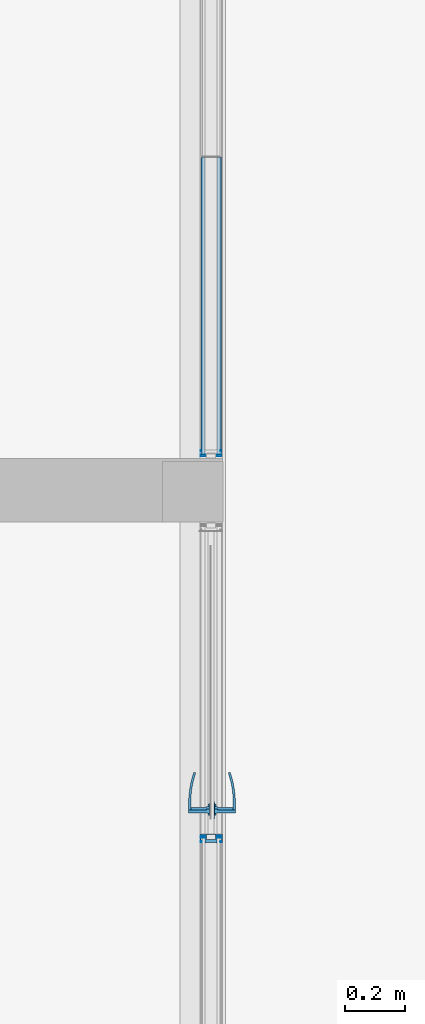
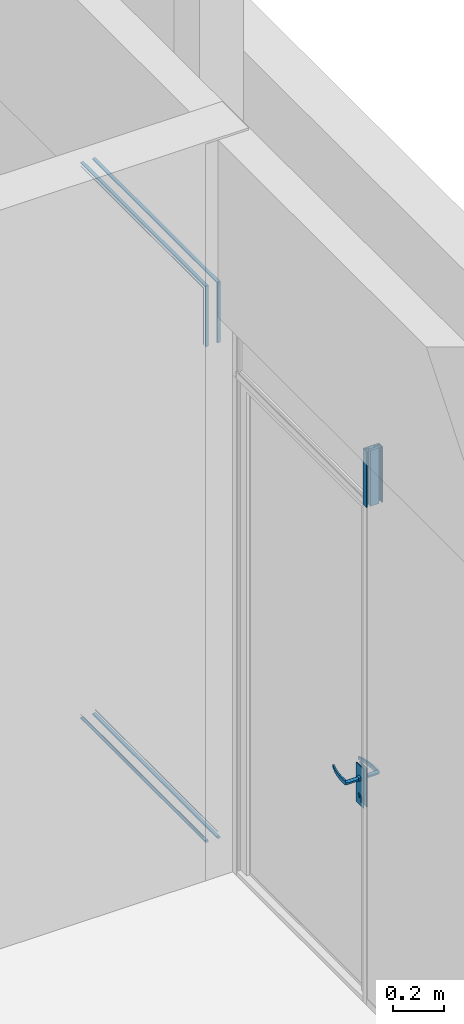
# One storey, part 45 of 65: 6 building element parts, 7 elements without a shape of their own.
"""IFC2X3 building model written with IfcOpenShell, lengths in millimetres."""

from ifc_helpers import new_model, entity, si_unit, converted_unit, derived_unit, money_unit, direction, frame, origin_with_axes, place, context, subcontext, project, spatial, open_shell, faceted_brep, surface_model, material, type_object, element, aggregate, save


model = new_model("IFC2X3")

# Units and contexts
model_context = context("Model", 3, precision=0.01, world=origin_with_axes(), true_north=direction((0.0, 1.0)))
body_context = subcontext(model_context, "Body", "Model", "MODEL_VIEW")
ifc_project = project(units=[si_unit("LENGTHUNIT", "METRE", prefix="MILLI"), si_unit("AREAUNIT", "SQUARE_METRE"), si_unit("VOLUMEUNIT", "CUBIC_METRE"), converted_unit("PLANEANGLEUNIT", "DEGREE", entity("IfcPlaneAngleMeasure", 0.0174532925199), si_unit("PLANEANGLEUNIT", "RADIAN"), dimensions=[0, 0, 0, 0, 0, 0, 0]), si_unit("SOLIDANGLEUNIT", "STERADIAN"), money_unit("EUR"), converted_unit("TIMEUNIT", "Year", entity("IfcTimeMeasure", 31556926.0), si_unit("TIMEUNIT", "SECOND"), dimensions=[0, 0, 1, 0, 0, 0, 0]), si_unit("MASSUNIT", "GRAM", prefix="KILO"), si_unit("THERMODYNAMICTEMPERATUREUNIT", "DEGREE_CELSIUS"), si_unit("LUMINOUSINTENSITYUNIT", "LUMEN"), si_unit("ENERGYUNIT", "JOULE", prefix="MEGA"), derived_unit("THERMALCONDUCTANCEUNIT", [(si_unit("POWERUNIT", "WATT"), 1), (si_unit("LENGTHUNIT", "METRE"), -1), (si_unit("THERMODYNAMICTEMPERATUREUNIT", "KELVIN"), -1)]), derived_unit("SPECIFICHEATCAPACITYUNIT", [(si_unit("ENERGYUNIT", "JOULE"), 1), (si_unit("MASSUNIT", "GRAM", prefix="KILO"), -1), (si_unit("THERMODYNAMICTEMPERATUREUNIT", "KELVIN"), -1)]), derived_unit("MASSDENSITYUNIT", [(si_unit("MASSUNIT", "GRAM", prefix="KILO"), 1), (si_unit("VOLUMEUNIT", "CUBIC_METRE"), -1)])], contexts=[model_context])

# Site, building, storey
site_placement = place(None, origin_with_axes())
site = spatial("IfcSite", under=ifc_project, at=site_placement, Name="Puškini 31, Narva", CompositionType="ELEMENT")
building_placement = place(site_placement, origin_with_axes())
building = spatial("IfcBuilding", under=site, at=building_placement, Name="Narva Riigigümnaasium", CompositionType="ELEMENT")
storey_placement = place(building_placement, frame((0.0, 0.0, -1320.0), z_axis=(0.0, 0.0, 1.0), x_axis=(1.0, 0.0, 0.0)))
storey = spatial("IfcBuildingStorey", under=building, at=storey_placement, Name="1.korrus -1.32", CompositionType="ELEMENT", Elevation=-1320.0)

# Curtain wall, members, building element parts
curtain_wall_type = type_object("IfcCurtainWallType", Name="Curtain Wall Type", PredefinedType="NOTDEFINED")
curtain_wall_1_placement = place(storey_placement, frame((30362.9999988, 168706.249936, -1.99739158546e-06), z_axis=(0.0, 0.0, 1.0), x_axis=(1.0, 0.0, 0.0)))
curtain_wall_1 = element("IfcCurtainWall", 1, at=curtain_wall_1_placement, inside=storey, type_object=curtain_wall_type, Name="G-SKLF-05")
member_type = type_object("IfcMemberType", Name="Boundary Frame 30 x 37", PredefinedType="MULLION")
member_1_placement = place(curtain_wall_1_placement, frame((0.0, -1496.25, 2700.00009054), z_axis=(0.0, 1.0, 0.0), x_axis=(0.0, 0.0, 1.0)))
member_1 = element("IfcMember", 2, at=member_1_placement, type_object=member_type, Name="G-SKLF-14-raam", ObjectType="MULLION")
ifc_material_1 = material(Name="Klaasvill")
building_element_part_1_placement = place(member_1_placement, origin_with_axes())
building_element_part_1 = element("IfcBuildingElementPart", 3, at=building_element_part_1_placement, material=ifc_material_1, Name="Klaasvill", context=body_context, shape_type="Brep", body=[
    faceted_brep([(-13.8499999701, -20.000000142, 13.8499999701), (-13.8499999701, -20.000000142, 996.807494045), (-7.49999990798, -20.000000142, 997.124996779), (-7.49999990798, -20.000000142, 7.49999990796), (-13.8499999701, -34.0161444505, 13.8499999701), (-13.8499999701, -34.0161444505, 996.807494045), (-7.49999990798, -34.0161444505, 997.124996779), (-7.49999990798, -34.0161444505, 7.49999990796)], [[[0, 1, 2, 3]], [[4, 5, 1, 0]], [[2, 1, 5, 6]], [[3, 2, 6, 7]], [[3, 7, 4, 0]], [[7, 6, 5, 4]]]),
    faceted_brep([(-25.004489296, -32.0307503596, 25.004489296), (-25.004489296, -32.0307503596, 996.249764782), (-24.987414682, -34.0161444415, 996.25061852), (-24.987414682, -34.0161444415, 24.987414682), (-25.742237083, -31.2930025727, 25.742237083), (-25.742237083, -31.2930025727, 996.212877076), (-26.7500193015, -31.0229681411, 996.162487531), (-27.75780152, -31.2930025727, 996.112097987), (-28.4955493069, -32.0307503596, 996.075210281), (-28.7655837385, -33.0385325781, 996.061708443), (-28.5126239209, -34.0161444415, 996.074356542), (-28.5126239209, -34.0161444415, 28.5126239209), (-28.7655837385, -33.0385325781, 28.7655837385), (-28.4955493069, -32.0307503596, 28.4955493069), (-27.75780152, -31.2930025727, 27.75780152), (-26.7500193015, -31.0229681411, 26.7500193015)], [[[0, 1, 2, 3]], [[4, 5, 1, 0]], [[2, 1, 5, 6, 7, 8, 9, 10]], [[3, 2, 10, 11]], [[3, 11, 12, 13, 14, 15, 4, 0]], [[15, 6, 5, 4]], [[14, 7, 6, 15]], [[13, 8, 7, 14]], [[12, 9, 8, 13]], [[11, 10, 9, 12]]]),
    faceted_brep([(-7.49999990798, 34.0161445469, 7.49999990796), (-7.49999990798, 34.0161445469, 997.124996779), (-7.49999990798, 19.9999997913, 997.124996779), (-7.49999990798, 19.9999997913, 7.49999990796), (-13.8499999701, 34.0161445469, 13.8499999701), (-13.8499999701, 34.0161445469, 996.807494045), (-13.8499999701, 19.9999997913, 996.807494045), (-13.8499999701, 19.9999997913, 13.8499999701)], [[[0, 1, 2, 3]], [[4, 5, 1, 0]], [[2, 1, 5, 6]], [[3, 2, 6, 7]], [[3, 7, 4, 0]], [[7, 6, 5, 4]]]),
    faceted_brep([(-24.987414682, 34.0161444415, 24.987414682), (-24.987414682, 34.0161444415, 996.25061852), (-25.004489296, 32.0307503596, 996.249764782), (-25.004489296, 32.0307503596, 25.004489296), (-28.5126239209, 34.0161444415, 28.5126239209), (-28.5126239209, 34.0161444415, 996.074356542), (-28.7655837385, 33.0385325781, 996.061708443), (-28.4955493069, 32.0307503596, 996.075210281), (-27.75780152, 31.2930025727, 996.112097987), (-26.7500193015, 31.0229681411, 996.162487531), (-25.742237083, 31.2930025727, 996.212877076), (-25.742237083, 31.2930025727, 25.742237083), (-26.7500193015, 31.0229681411, 26.7500193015), (-27.75780152, 31.2930025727, 27.75780152), (-28.4955493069, 32.0307503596, 28.4955493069), (-28.7655837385, 33.0385325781, 28.7655837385)], [[[0, 1, 2, 3]], [[4, 5, 1, 0]], [[2, 1, 5, 6, 7, 8, 9, 10]], [[3, 2, 10, 11]], [[3, 11, 12, 13, 14, 15, 4, 0]], [[15, 6, 5, 4]], [[14, 7, 6, 15]], [[13, 8, 7, 14]], [[12, 9, 8, 13]], [[11, 10, 9, 12]]]),
])
aggregate(member_1, [building_element_part_1])
member_2_placement = place(curtain_wall_1_placement, frame((0.0, -1496.25, 0.0), z_axis=(0.0, 1.0, 0.0), x_axis=(0.0, 0.0, 1.0)))
member_2 = element("IfcMember", 4, at=member_2_placement, type_object=member_type, Name="G-SKLF-05-raam", ObjectType="MULLION")
building_element_part_2_placement = place(member_2_placement, origin_with_axes())
building_element_part_2 = element("IfcBuildingElementPart", 5, at=building_element_part_2_placement, material=ifc_material_1, Name="Klaasvill", context=body_context, shape_type="Brep", body=[
    faceted_brep([(13.8499999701, -20.000000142, 13.8499999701), (7.49999990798, -20.000000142, 7.49999990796), (7.49999990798, -20.000000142, 997.124996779), (13.8499999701, -20.000000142, 996.807494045), (13.8499999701, -34.0161444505, 13.8499999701), (7.49999990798, -34.0161444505, 7.49999990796), (7.49999990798, -34.0161444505, 997.124996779), (13.8499999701, -34.0161444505, 996.807494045)], [[[0, 1, 2, 3]], [[1, 0, 4, 5]], [[1, 5, 6, 2]], [[2, 6, 7, 3]], [[4, 0, 3, 7]], [[5, 4, 7, 6]]]),
    faceted_brep([(25.004489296, -32.0307503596, 25.004489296), (24.987414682, -34.0161444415, 24.987414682), (24.987414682, -34.0161444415, 996.25061852), (25.004489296, -32.0307503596, 996.249764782), (25.742237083, -31.2930025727, 25.742237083), (26.7500193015, -31.0229681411, 26.7500193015), (27.75780152, -31.2930025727, 27.75780152), (28.4955493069, -32.0307503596, 28.4955493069), (28.7655837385, -33.0385325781, 28.7655837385), (28.5126239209, -34.0161444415, 28.5126239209), (28.5126239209, -34.0161444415, 996.074356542), (28.7655837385, -33.0385325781, 996.061708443), (28.4955493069, -32.0307503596, 996.075210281), (27.75780152, -31.2930025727, 996.112097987), (26.7500193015, -31.0229681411, 996.162487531), (25.742237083, -31.2930025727, 996.212877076)], [[[0, 1, 2, 3]], [[1, 0, 4, 5, 6, 7, 8, 9]], [[1, 9, 10, 2]], [[2, 10, 11, 12, 13, 14, 15, 3]], [[4, 0, 3, 15]], [[5, 4, 15, 14]], [[6, 5, 14, 13]], [[7, 6, 13, 12]], [[8, 7, 12, 11]], [[9, 8, 11, 10]]]),
    faceted_brep([(7.49999990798, 34.0161445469, 7.49999990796), (7.49999990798, 19.9999997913, 7.49999990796), (7.49999990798, 19.9999997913, 997.124996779), (7.49999990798, 34.0161445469, 997.124996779), (13.8499999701, 34.0161445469, 13.8499999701), (13.8499999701, 19.9999997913, 13.8499999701), (13.8499999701, 19.9999997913, 996.807494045), (13.8499999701, 34.0161445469, 996.807494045)], [[[0, 1, 2, 3]], [[1, 0, 4, 5]], [[1, 5, 6, 2]], [[2, 6, 7, 3]], [[4, 0, 3, 7]], [[5, 4, 7, 6]]]),
    faceted_brep([(24.987414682, 34.0161444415, 24.987414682), (25.004489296, 32.0307503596, 25.004489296), (25.004489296, 32.0307503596, 996.249764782), (24.987414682, 34.0161444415, 996.25061852), (28.5126239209, 34.0161444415, 28.5126239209), (28.7655837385, 33.0385325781, 28.7655837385), (28.4955493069, 32.0307503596, 28.4955493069), (27.75780152, 31.2930025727, 27.75780152), (26.7500193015, 31.0229681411, 26.7500193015), (25.742237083, 31.2930025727, 25.742237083), (25.742237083, 31.2930025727, 996.212877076), (26.7500193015, 31.0229681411, 996.162487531), (27.75780152, 31.2930025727, 996.112097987), (28.4955493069, 32.0307503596, 996.075210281), (28.7655837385, 33.0385325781, 996.061708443), (28.5126239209, 34.0161444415, 996.074356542)], [[[0, 1, 2, 3]], [[1, 0, 4, 5, 6, 7, 8, 9]], [[1, 9, 10, 2]], [[2, 10, 11, 12, 13, 14, 15, 3]], [[4, 0, 3, 15]], [[5, 4, 15, 14]], [[6, 5, 14, 13]], [[7, 6, 13, 12]], [[8, 7, 12, 11]], [[9, 8, 11, 10]]]),
])
aggregate(member_2, [building_element_part_2])
member_3_placement = place(curtain_wall_1_placement, frame((0.0, -1496.25, 2400.000002), z_axis=(0.0, 0.0, 1.0), x_axis=(0.0, -1.0, 0.0)))
member_3 = element("IfcMember", 6, at=member_3_placement, type_object=member_type, Name="G-SKLF-15-raam", ObjectType="MULLION")
aggregate(curtain_wall_1, [member_1, member_2, member_3])
building_element_part_3_placement = place(member_3_placement, origin_with_axes())
building_element_part_3 = element("IfcBuildingElementPart", 7, at=building_element_part_3_placement, material=ifc_material_1, Name="Klaasvill", context=body_context, shape_type="Brep", body=[
    faceted_brep([(-7.49999990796, -20.000000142, 0.0), (-13.8499999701, -20.000000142, 0.0), (-13.8499999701, -20.000000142, 286.150088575), (-7.49999990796, -20.000000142, 292.500088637), (-7.49999990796, -34.0161444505, 0.0), (-13.8499999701, -34.0161444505, 0.0), (-13.8499999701, -34.0161444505, 286.150088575), (-7.49999990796, -34.0161444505, 292.500088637)], [[[0, 1, 2, 3]], [[0, 4, 5, 1]], [[1, 5, 6, 2]], [[3, 2, 6, 7]], [[4, 0, 3, 7]], [[5, 4, 7, 6]]]),
    faceted_brep([(-24.987414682, -34.0161444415, 0.0), (-25.004489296, -32.0307503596, 0.0), (-25.004489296, -32.0307503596, 274.995599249), (-24.987414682, -34.0161444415, 275.012673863), (-28.5126239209, -34.0161444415, 0.0), (-28.7655837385, -33.0385325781, 0.0), (-28.4955493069, -32.0307503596, 0.0), (-27.75780152, -31.2930025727, 0.0), (-26.7500193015, -31.0229681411, 0.0), (-25.742237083, -31.2930025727, 0.0), (-25.742237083, -31.2930025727, 274.257851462), (-26.7500193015, -31.0229681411, 273.250069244), (-27.75780152, -31.2930025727, 272.242287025), (-28.4955493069, -32.0307503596, 271.504539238), (-28.7655837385, -33.0385325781, 271.234504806), (-28.5126239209, -34.0161444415, 271.487464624)], [[[0, 1, 2, 3]], [[0, 4, 5, 6, 7, 8, 9, 1]], [[1, 9, 10, 2]], [[3, 2, 10, 11, 12, 13, 14, 15]], [[4, 0, 3, 15]], [[5, 4, 15, 14]], [[6, 5, 14, 13]], [[7, 6, 13, 12]], [[8, 7, 12, 11]], [[9, 8, 11, 10]]]),
    faceted_brep([(-7.49999990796, 19.9999997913, 0.0), (-7.49999990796, 34.0161445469, 0.0), (-7.49999990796, 34.0161445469, 292.500088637), (-7.49999990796, 19.9999997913, 292.500088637), (-13.8499999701, 19.9999997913, 0.0), (-13.8499999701, 34.0161445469, 0.0), (-13.8499999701, 34.0161445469, 286.150088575), (-13.8499999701, 19.9999997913, 286.150088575)], [[[0, 1, 2, 3]], [[0, 4, 5, 1]], [[1, 5, 6, 2]], [[3, 2, 6, 7]], [[4, 0, 3, 7]], [[5, 4, 7, 6]]]),
    faceted_brep([(-25.004489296, 32.0307503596, 0.0), (-24.987414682, 34.0161444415, 0.0), (-24.987414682, 34.0161444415, 275.012673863), (-25.004489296, 32.0307503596, 274.995599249), (-25.742237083, 31.2930025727, 0.0), (-26.7500193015, 31.0229681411, 0.0), (-27.75780152, 31.2930025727, 0.0), (-28.4955493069, 32.0307503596, 0.0), (-28.7655837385, 33.0385325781, 0.0), (-28.5126239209, 34.0161444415, 0.0), (-28.5126239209, 34.0161444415, 271.487464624), (-28.7655837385, 33.0385325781, 271.234504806), (-28.4955493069, 32.0307503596, 271.504539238), (-27.75780152, 31.2930025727, 272.242287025), (-26.7500193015, 31.0229681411, 273.250069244), (-25.742237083, 31.2930025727, 274.257851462)], [[[0, 1, 2, 3]], [[0, 4, 5, 6, 7, 8, 9, 1]], [[1, 9, 10, 2]], [[3, 2, 10, 11, 12, 13, 14, 15]], [[4, 0, 3, 15]], [[5, 4, 15, 14]], [[6, 5, 14, 13]], [[7, 6, 13, 12]], [[8, 7, 12, 11]], [[9, 8, 11, 10]]]),
])
aggregate(member_3, [building_element_part_3])

# Curtain wall, door, building element parts, proxy
curtain_wall_2_placement = place(storey_placement, frame((30362.9999988, 164066.428557, -5.96047033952e-06), z_axis=(0.0, 0.0, 1.0), x_axis=(1.0, 0.0, 0.0)))
curtain_wall_2 = element("IfcCurtainWall", 8, at=curtain_wall_2_placement, inside=storey, type_object=curtain_wall_type, Name="G-SKLF-04")
door_style = type_object("IfcDoorStyle", Name="985 x 2365 x 20", ConstructionType="NOTDEFINED", OperationType="NOTDEFINED", ParameterTakesPrecedence=False, Sizeable=False)
door_placement = place(curtain_wall_2_placement, frame((0.0, 2580.10476415, 1200.00000298), z_axis=(0.0, 0.0, 1.0), x_axis=(0.0, -1.0, 0.0)))
door = element("IfcDoor", 9, at=door_placement, type_object=door_style, Name="G-SKLF-04-U1", ObjectType="DOOR")
ifc_material_2 = material(Name="ET-07_Teras - Roostevaba")
building_element_part_4_placement = place(door_placement, origin_with_axes())
building_element_part_4 = element("IfcBuildingElementPart", 10, at=building_element_part_4_placement, material=ifc_material_2, Name="ET-07_Teras - Roostevaba", context=body_context, shape_type="SurfaceModel", body=[
    faceted_brep([(627.233322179, 9.0, -120.000002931), (627.233322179, 12.0, -120.000002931), (570.233322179, 12.0, -120.000002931), (570.233322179, 9.0, -120.000002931), (627.233322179, 9.0, -310.000002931), (627.233322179, 12.0, -310.000002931), (570.233322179, 12.0, -310.000002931), (570.233322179, 9.0, -310.000002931)], [[[0, 1, 2, 3]], [[4, 5, 1, 0]], [[1, 5, 6, 2]], [[3, 2, 6, 7]], [[0, 3, 7, 4]], [[7, 6, 5, 4]]]),
    surface_model("IfcShellBasedSurfaceModel", [(598.733322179, 73.0, -190.000002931), (598.733322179, 80.0, -190.000002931), (607.393576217, 80.0, -185.000002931), (607.393576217, 73.0, -185.000002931), (573.733322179, 73.0, -190.000002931), (573.733322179, 80.0, -190.000002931), (573.733322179, 80.0, -170.000002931), (598.733322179, 80.0, -170.000002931), (607.393576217, 80.0, -175.000002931), (607.393576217, 73.0, -175.000002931), (598.733322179, 73.0, -170.000002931), (573.733322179, 73.0, -170.000002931)], [open_shell([[[0, 1, 2, 3]], [[4, 5, 1, 0]], [[1, 5, 6, 7, 8, 2]], [[3, 2, 8, 9]], [[0, 3, 9, 10, 11, 4]], [[10, 7, 6, 11]], [[9, 8, 7, 10]]])]),
    surface_model("IfcShellBasedSurfaceModel", [(573.733322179, 73.0, -170.000002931), (560.329412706, 80.0, -170.392702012), (560.635039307, 73.0, -170.392702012), (573.733322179, 80.0, -170.000002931), (533.623605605, 77.6635446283, -171.178100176), (560.635039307, 73.0, -189.607303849), (573.733322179, 73.0, -190.000002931), (573.733322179, 80.0, -190.000002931), (560.329412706, 80.0, -189.607303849), (533.623605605, 77.6635446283, -188.821905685), (534.538159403, 70.7168188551, -171.178100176), (534.538159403, 70.7168188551, -188.821905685), (507.223057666, 73.0084157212, -188.036507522), (507.223057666, 73.0084157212, -171.963498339), (508.739578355, 66.1678329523, -171.963498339), (508.739578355, 66.1678329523, -188.036507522), (481.328693, 66.0700416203, -187.251109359), (481.328693, 66.0700416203, -172.748896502), (483.435638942, 59.3876628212, -172.748896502), (483.435638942, 59.3876628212, -187.251109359), (473.272117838, 63.1376880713, -187.000002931), (473.272117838, 63.1376880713, -173.000002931), (475.562764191, 56.5221707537, -173.000002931), (475.562764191, 56.5221707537, -187.000002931)], [open_shell([[[0, 1, 2]], [[0, 3, 1]], [[2, 1, 4]], [[0, 2, 5, 6]], [[3, 7, 8, 1]], [[1, 8, 9, 4]], [[2, 4, 10]], [[2, 10, 11, 5]], [[5, 7, 6]], [[5, 8, 7]], [[11, 9, 8]], [[4, 9, 12, 13]], [[10, 4, 13]], [[10, 14, 15, 11]], [[11, 8, 5]], [[15, 9, 11]], [[15, 12, 9]], [[13, 12, 16, 17]], [[10, 13, 14]], [[14, 18, 19, 15]], [[19, 12, 15]], [[19, 16, 12]], [[17, 16, 20, 21]], [[14, 13, 17]], [[14, 17, 18]], [[18, 22, 23, 19]], [[23, 16, 19]], [[23, 20, 16]], [[22, 21, 20, 23]], [[18, 17, 21]], [[18, 21, 22]]])]),
    faceted_brep([(595.025118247, 22.0, -191.412681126), (594.716101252, 12.0, -192.363737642), (585.733322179, 12.0, -180.000002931), (586.733322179, 22.0, -180.000002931), (608.441526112, 22.0, -187.053425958), (609.250543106, 12.0, -187.64121121), (609.250543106, 12.0, -172.358794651), (594.716101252, 12.0, -167.636268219), (595.025118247, 22.0, -168.587324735), (608.441526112, 22.0, -172.946579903)], [[[0, 1, 2, 3]], [[4, 5, 1, 0]], [[2, 1, 5, 6, 7]], [[3, 2, 7, 8]], [[3, 8, 9, 4, 0]], [[9, 6, 5, 4]], [[8, 7, 6, 9]]]),
    faceted_brep([(592.552982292, 16.0, -294.021133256), (591.934948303, 12.0, -295.923246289), (576.733322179, 12.0, -275.000002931), (578.733322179, 16.0, -275.000002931), (614.913662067, 16.0, -286.755707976), (616.531696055, 12.0, -287.931278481), (616.531696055, 12.0, -262.06872738), (591.934948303, 12.0, -254.076759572), (592.552982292, 16.0, -255.978872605), (614.913662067, 16.0, -263.244297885)], [[[0, 1, 2, 3]], [[4, 5, 1, 0]], [[2, 1, 5, 6, 7]], [[3, 2, 7, 8]], [[3, 8, 9, 4, 0]], [[9, 6, 5, 4]], [[8, 7, 6, 9]]]),
    faceted_brep([(596.570203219, 18.0, -272.657398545), (596.261186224, 16.0, -273.608455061), (590.733322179, 16.0, -266.000002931), (591.733322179, 18.0, -266.000002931), (604.39644114, 18.0, -270.114499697), (605.205458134, 16.0, -270.702284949), (605.205458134, 16.0, -261.297720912), (596.261186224, 16.0, -258.3915508), (596.570203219, 18.0, -259.342607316), (604.39644114, 18.0, -261.885506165)], [[[0, 1, 2, 3]], [[4, 5, 1, 0]], [[2, 1, 5, 6, 7]], [[3, 2, 7, 8]], [[3, 8, 9, 4, 0]], [[9, 6, 5, 4]], [[8, 7, 6, 9]]]),
    faceted_brep([(598.733322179, 22.0, -170.000002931), (598.733322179, 73.0, -170.000002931), (589.222757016, 73.0, -176.909832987), (589.222757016, 22.0, -176.909832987), (608.243887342, 22.0, -176.909832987), (608.243887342, 73.0, -176.909832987), (604.611174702, 73.0, -188.090172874), (592.855469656, 73.0, -188.090172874), (592.855469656, 22.0, -188.090172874), (604.611174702, 22.0, -188.090172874)], [[[0, 1, 2, 3]], [[4, 5, 1, 0]], [[1, 5, 6, 7, 2]], [[3, 2, 7, 8]], [[0, 3, 8, 9, 4]], [[9, 6, 5, 4]], [[8, 7, 6, 9]]]),
    faceted_brep([(627.233322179, -3.0, -120.000002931), (570.233322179, -3.0, -120.000002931), (570.233322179, -6.0, -120.000002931), (627.233322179, -6.0, -120.000002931), (627.233322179, -3.0, -310.000002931), (570.233322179, -3.0, -310.000002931), (570.233322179, -6.0, -310.000002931), (627.233322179, -6.0, -310.000002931)], [[[0, 1, 2, 3]], [[0, 4, 5, 1]], [[1, 5, 6, 2]], [[3, 2, 6, 7]], [[4, 0, 3, 7]], [[5, 4, 7, 6]]]),
    surface_model("IfcShellBasedSurfaceModel", [(598.733322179, -67.0, -190.000002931), (607.393576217, -67.0, -185.000002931), (607.393576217, -74.0, -185.000002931), (598.733322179, -74.0, -190.000002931), (573.733322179, -67.0, -190.000002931), (573.733322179, -67.0, -170.000002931), (598.733322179, -67.0, -170.000002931), (607.393576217, -67.0, -175.000002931), (607.393576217, -74.0, -175.000002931), (598.733322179, -74.0, -170.000002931), (573.733322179, -74.0, -170.000002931), (573.733322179, -74.0, -190.000002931)], [open_shell([[[0, 1, 2, 3]], [[0, 4, 5, 6, 7, 1]], [[1, 7, 8, 2]], [[3, 2, 8, 9, 10, 11]], [[4, 0, 3, 11]], [[6, 5, 10, 9]], [[7, 6, 9, 8]]])]),
    surface_model("IfcShellBasedSurfaceModel", [(573.733322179, -67.0, -170.000002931), (560.635039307, -67.0, -170.392702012), (560.329412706, -74.0, -170.392702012), (573.733322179, -67.0, -190.000002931), (560.635039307, -67.0, -189.607303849), (533.623605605, -71.6635446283, -171.178100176), (573.733322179, -74.0, -170.000002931), (573.733322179, -74.0, -190.000002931), (534.538159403, -64.716818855, -188.821905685), (534.538159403, -64.716818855, -171.178100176), (533.623605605, -71.6635446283, -188.821905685), (560.329412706, -74.0, -189.607303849), (508.739578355, -60.1678329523, -188.036507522), (508.739578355, -60.1678329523, -171.963498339), (507.223057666, -67.0084157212, -171.963498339), (507.223057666, -67.0084157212, -188.036507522), (483.435638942, -53.3876628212, -187.251109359), (483.435638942, -53.3876628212, -172.748896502), (481.328693, -60.0700416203, -172.748896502), (481.328693, -60.0700416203, -187.251109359), (475.562764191, -50.5221707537, -187.000002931), (475.562764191, -50.5221707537, -173.000002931), (473.272117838, -57.1376880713, -173.000002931), (473.272117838, -57.1376880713, -187.000002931)], [open_shell([[[0, 1, 2]], [[0, 3, 4, 1]], [[1, 5, 2]], [[0, 2, 6]], [[4, 3, 7]], [[1, 4, 8, 9]], [[1, 9, 5]], [[2, 5, 10, 11]], [[6, 2, 11, 7]], [[4, 7, 11]], [[8, 4, 11]], [[9, 8, 12, 13]], [[9, 14, 5]], [[5, 14, 15, 10]], [[8, 11, 10]], [[12, 8, 10]], [[13, 12, 16, 17]], [[9, 13, 14]], [[14, 18, 19, 15]], [[12, 10, 15]], [[16, 12, 15]], [[17, 16, 20, 21]], [[13, 17, 18]], [[13, 18, 14]], [[18, 22, 23, 19]], [[16, 15, 19]], [[20, 16, 19]], [[21, 20, 23, 22]], [[17, 21, 22]], [[17, 22, 18]], [[20, 19, 23]]])]),
    faceted_brep([(595.025118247, -16.0, -191.412681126), (586.733322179, -16.0, -180.000002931), (585.733322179, -6.0, -180.000002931), (594.716101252, -6.0, -192.363737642), (608.441526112, -16.0, -187.053425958), (608.441526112, -16.0, -172.946579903), (595.025118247, -16.0, -168.587324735), (594.716101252, -6.0, -167.636268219), (609.250543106, -6.0, -172.358794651), (609.250543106, -6.0, -187.64121121)], [[[0, 1, 2, 3]], [[1, 0, 4, 5, 6]], [[1, 6, 7, 2]], [[2, 7, 8, 9, 3]], [[4, 0, 3, 9]], [[5, 4, 9, 8]], [[6, 5, 8, 7]]]),
    faceted_brep([(592.552982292, -10.0, -294.021133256), (578.733322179, -10.0, -275.000002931), (576.733322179, -6.0, -275.000002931), (591.934948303, -6.0, -295.923246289), (614.913662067, -10.0, -286.755707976), (614.913662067, -10.0, -263.244297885), (592.552982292, -10.0, -255.978872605), (591.934948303, -6.0, -254.076759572), (616.531696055, -6.0, -262.06872738), (616.531696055, -6.0, -287.931278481)], [[[0, 1, 2, 3]], [[1, 0, 4, 5, 6]], [[1, 6, 7, 2]], [[2, 7, 8, 9, 3]], [[4, 0, 3, 9]], [[5, 4, 9, 8]], [[6, 5, 8, 7]]]),
    faceted_brep([(596.570203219, -12.0, -272.657398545), (591.733322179, -12.0, -266.000002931), (590.733322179, -10.0, -266.000002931), (596.261186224, -10.0, -273.608455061), (604.39644114, -12.0, -270.114499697), (604.39644114, -12.0, -261.885506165), (596.570203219, -12.0, -259.342607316), (596.261186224, -10.0, -258.3915508), (605.205458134, -10.0, -261.297720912), (605.205458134, -10.0, -270.702284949)], [[[0, 1, 2, 3]], [[1, 0, 4, 5, 6]], [[1, 6, 7, 2]], [[2, 7, 8, 9, 3]], [[4, 0, 3, 9]], [[5, 4, 9, 8]], [[6, 5, 8, 7]]]),
    faceted_brep([(598.733322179, -16.0, -170.000002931), (589.222757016, -16.0, -176.909832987), (589.222757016, -67.0, -176.909832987), (598.733322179, -67.0, -170.000002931), (608.243887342, -16.0, -176.909832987), (604.611174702, -16.0, -188.090172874), (592.855469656, -16.0, -188.090172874), (592.855469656, -67.0, -188.090172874), (604.611174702, -67.0, -188.090172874), (608.243887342, -67.0, -176.909832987)], [[[0, 1, 2, 3]], [[0, 4, 5, 6, 1]], [[1, 6, 7, 2]], [[3, 2, 7, 8, 9]], [[4, 0, 3, 9]], [[5, 4, 9, 8]], [[6, 5, 8, 7]]]),
])
aggregate(door, [building_element_part_4])
building_element_proxy_type = type_object("IfcBuildingElementProxyType", Name="30 x -96", PredefinedType="NOTDEFINED")
proxy_placement = place(curtain_wall_2_placement, frame((0.0, 1903.37144197, 2400.00000596), z_axis=(0.0, 0.0, 1.0), x_axis=(0.0, -1.0, 0.0)))
proxy = element("IfcBuildingElementProxy", 11, at=proxy_placement, type_object=building_element_proxy_type, Name="G-SKLF-04-raam")
aggregate(curtain_wall_2, [door, proxy])
building_element_part_5_placement = place(proxy_placement, origin_with_axes())
building_element_part_5 = element("IfcBuildingElementPart", 12, at=building_element_part_5_placement, material=ifc_material_1, Name="Klaasvill", context=body_context, shape_type="Brep", body=[
    faceted_brep([(7.49999990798, 20.000000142, 0.0), (13.8499999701, 20.000000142, 0.0), (13.8499999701, 20.000000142, 269.999996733), (7.49999990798, 20.000000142, 269.999996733), (7.49999990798, 34.0161444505, 0.0), (13.8499999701, 34.0161444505, 0.0), (13.8499999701, 34.0161444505, 269.999996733), (7.49999990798, 34.0161444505, 269.999996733)], [[[0, 1, 2, 3]], [[0, 4, 5, 1]], [[1, 5, 6, 2]], [[3, 2, 6, 7]], [[4, 0, 3, 7]], [[5, 4, 7, 6]]]),
    faceted_brep([(24.987414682, 34.0161444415, 0.0), (25.004489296, 32.0307503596, 0.0), (25.004489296, 32.0307503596, 269.999996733), (24.987414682, 34.0161444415, 269.999996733), (28.5126239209, 34.0161444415, 0.0), (28.7655837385, 33.0385325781, 0.0), (28.4955493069, 32.0307503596, 0.0), (27.75780152, 31.2930025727, 0.0), (26.7500193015, 31.0229681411, 0.0), (25.742237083, 31.2930025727, 0.0), (25.742237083, 31.2930025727, 269.999996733), (26.7500193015, 31.0229681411, 269.999996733), (27.75780152, 31.2930025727, 269.999996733), (28.4955493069, 32.0307503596, 269.999996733), (28.7655837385, 33.0385325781, 269.999996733), (28.5126239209, 34.0161444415, 269.999996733)], [[[0, 1, 2, 3]], [[0, 4, 5, 6, 7, 8, 9, 1]], [[1, 9, 10, 2]], [[3, 2, 10, 11, 12, 13, 14, 15]], [[4, 0, 3, 15]], [[5, 4, 15, 14]], [[6, 5, 14, 13]], [[7, 6, 13, 12]], [[8, 7, 12, 11]], [[9, 8, 11, 10]]]),
    faceted_brep([(7.49999990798, -19.9999997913, 0.0), (7.49999990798, -34.0161445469, 0.0), (7.49999990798, -34.0161445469, 269.999996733), (7.49999990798, -19.9999997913, 269.999996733), (13.8499999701, -19.9999997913, 0.0), (13.8499999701, -34.0161445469, 0.0), (13.8499999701, -34.0161445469, 269.999996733), (13.8499999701, -19.9999997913, 269.999996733)], [[[0, 1, 2, 3]], [[0, 4, 5, 1]], [[1, 5, 6, 2]], [[3, 2, 6, 7]], [[4, 0, 3, 7]], [[5, 4, 7, 6]]]),
    faceted_brep([(25.004489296, -32.0307503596, 0.0), (24.987414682, -34.0161444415, 0.0), (24.987414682, -34.0161444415, 269.999996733), (25.004489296, -32.0307503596, 269.999996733), (25.742237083, -31.2930025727, 0.0), (26.7500193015, -31.0229681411, 0.0), (27.75780152, -31.2930025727, 0.0), (28.4955493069, -32.0307503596, 0.0), (28.7655837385, -33.0385325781, 0.0), (28.5126239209, -34.0161444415, 0.0), (28.5126239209, -34.0161444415, 269.999996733), (28.7655837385, -33.0385325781, 269.999996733), (28.4955493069, -32.0307503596, 269.999996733), (27.75780152, -31.2930025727, 269.999996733), (26.7500193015, -31.0229681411, 269.999996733), (25.742237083, -31.2930025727, 269.999996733)], [[[0, 1, 2, 3]], [[0, 4, 5, 6, 7, 8, 9, 1]], [[1, 9, 10, 2]], [[3, 2, 10, 11, 12, 13, 14, 15]], [[4, 0, 3, 15]], [[5, 4, 15, 14]], [[6, 5, 14, 13]], [[7, 6, 13, 12]], [[8, 7, 12, 11]], [[9, 8, 11, 10]]]),
])
ifc_material_3 = material(Name="Teras RAL7012")
building_element_part_6_placement = place(proxy_placement, origin_with_axes())
building_element_part_6 = element("IfcBuildingElementPart", 13, at=building_element_part_6_placement, material=ifc_material_3, Name="Teras RAL7012", context=body_context, shape_type="Brep", body=[
    faceted_brep([(0.0, -17.0000000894, 0.0), (29.5999996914, -17.0000000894, 0.0), (29.5999996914, -17.0000000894, 269.999996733), (0.0, -17.0000000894, 269.999996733), (0.0, 17.0000000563, 0.0), (29.5999996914, 17.0000000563, 0.0), (1.9999999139, 15.0000001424, 0.0), (1.9999999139, -15.0000001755, 0.0), (18.7999996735, -15.0000001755, 0.0), (18.7999996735, 15.0000001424, 0.0), (29.5999996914, 17.0000000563, 269.999996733), (0.0, 17.0000000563, 269.999996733), (1.9999999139, 15.0000001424, 269.999996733), (18.7999996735, 15.0000001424, 269.999996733), (18.7999996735, -15.0000001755, 269.999996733), (1.9999999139, -15.0000001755, 269.999996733)], [[[0, 1, 2, 3]], [[0, 4, 5, 1], [6, 7, 8, 9]], [[1, 5, 10, 2]], [[3, 2, 10, 11], [12, 13, 14, 15]], [[4, 0, 3, 11]], [[5, 4, 11, 10]], [[7, 6, 12, 15]], [[8, 7, 15, 14]], [[9, 8, 14, 13]], [[6, 9, 13, 12]]]),
    faceted_brep([(0.0, 17.0, 0.0), (29.5999996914, 17.0000000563, 0.0), (29.5999996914, 17.0000000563, 269.999996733), (0.0, 17.0, 269.999996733), (0.0, 37.0, 0.0), (30.0000193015, 37.0, 0.0), (30.0000193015, 34.0161444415, 0.0), (28.5126239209, 34.0161444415, 0.0), (24.987414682, 34.0161444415, 0.0), (13.8499999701, 34.0161444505, 0.0), (7.49999999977, 34.0161444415, 0.0), (7.49999999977, 20.0, 0.0), (13.8499999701, 20.000000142, 0.0), (30.0000193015, 20.0, 0.0), (30.0000193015, 17.0, 0.0), (30.0000193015, 17.0, 269.999996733), (30.0000193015, 20.0, 269.999996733), (13.8499999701, 20.000000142, 269.999996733), (7.49999999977, 20.0, 269.999996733), (7.49999999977, 34.0161444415, 269.999996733), (13.8499999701, 34.0161444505, 269.999996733), (24.987414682, 34.0161444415, 269.999996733), (28.5126239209, 34.0161444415, 269.999996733), (30.0000193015, 34.0161444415, 269.999996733), (30.0000193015, 37.0, 269.999996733), (0.0, 37.0, 269.999996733)], [[[0, 1, 2, 3]], [[0, 4, 5, 6, 7, 8, 9, 10, 11, 12, 13, 14, 1]], [[1, 14, 15, 2]], [[3, 2, 15, 16, 17, 18, 19, 20, 21, 22, 23, 24, 25]], [[4, 0, 3, 25]], [[5, 4, 25, 24]], [[6, 5, 24, 23]], [[7, 6, 23, 22]], [[8, 7, 22, 21]], [[9, 8, 21, 20]], [[10, 9, 20, 19]], [[11, 10, 19, 18]], [[12, 11, 18, 17]], [[13, 12, 17, 16]], [[14, 13, 16, 15]]]),
    faceted_brep([(0.0, -17.0, 0.0), (0.0, -37.0, 0.0), (0.0, -37.0, 269.999996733), (0.0, -17.0, 269.999996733), (29.5999996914, -17.0000000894, 0.0), (30.0000193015, -17.0, 0.0), (30.0000193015, -20.0, 0.0), (13.8499999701, -19.9999997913, 0.0), (7.49999999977, -20.0, 0.0), (7.49999999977, -34.0161444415, 0.0), (13.8499999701, -34.0161445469, 0.0), (24.987414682, -34.0161444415, 0.0), (28.5126239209, -34.0161444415, 0.0), (30.0000193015, -34.0161444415, 0.0), (30.0000193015, -37.0, 0.0), (30.0000193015, -37.0, 269.999996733), (30.0000193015, -34.0161444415, 269.999996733), (28.5126239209, -34.0161444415, 269.999996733), (24.987414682, -34.0161444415, 269.999996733), (13.8499999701, -34.0161445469, 269.999996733), (7.49999999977, -34.0161444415, 269.999996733), (7.49999999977, -20.0, 269.999996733), (13.8499999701, -19.9999997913, 269.999996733), (30.0000193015, -20.0, 269.999996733), (30.0000193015, -17.0, 269.999996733), (29.5999996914, -17.0000000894, 269.999996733)], [[[0, 1, 2, 3]], [[0, 4, 5, 6, 7, 8, 9, 10, 11, 12, 13, 14, 1]], [[1, 14, 15, 2]], [[3, 2, 15, 16, 17, 18, 19, 20, 21, 22, 23, 24, 25]], [[4, 0, 3, 25]], [[5, 4, 25, 24]], [[6, 5, 24, 23]], [[7, 6, 23, 22]], [[8, 7, 22, 21]], [[9, 8, 21, 20]], [[10, 9, 20, 19]], [[11, 10, 19, 18]], [[12, 11, 18, 17]], [[13, 12, 17, 16]], [[14, 13, 16, 15]]]),
])
aggregate(proxy, [building_element_part_5, building_element_part_6])

save(model, "model.ifc")
